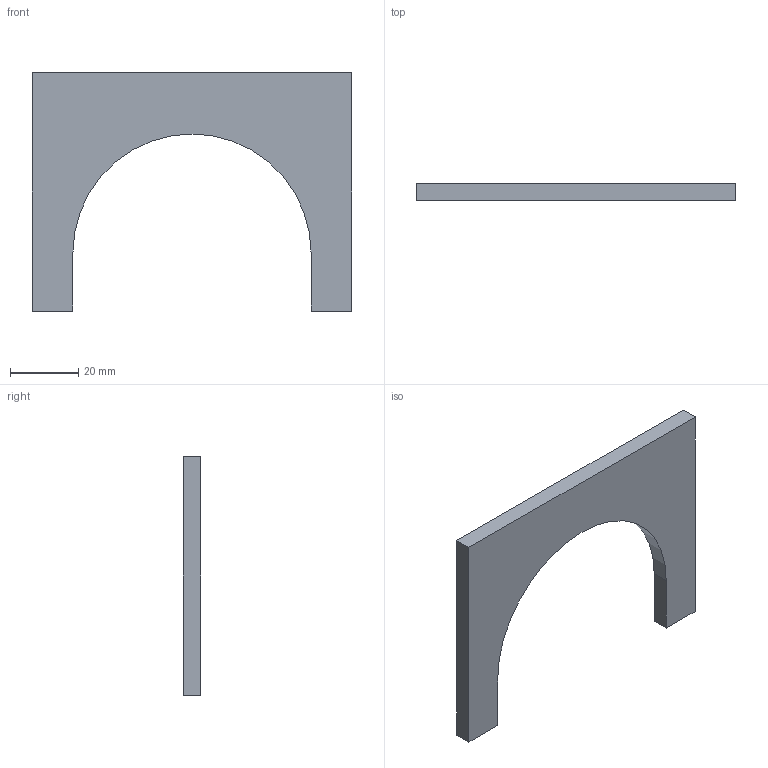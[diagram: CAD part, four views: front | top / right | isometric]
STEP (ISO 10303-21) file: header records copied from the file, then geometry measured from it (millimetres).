
FILE_DESCRIPTION (( 'STEP AP203' ), '1' );
FILE_NAME ('4896_Staffa_2_Dita_Piccola.STEP', '2019-02-20T19:12:48', ( '' ), ( '' ), 'SwSTEP 2.0', 'SolidWorks 2019', '' );
FILE_SCHEMA (( 'CONFIG_CONTROL_DESIGN' ));
Length unit declared in the file: millimetre
Products named in the file (1): 4896_Staffa_2_Dita_Piccola
Bounding box: 94 x 5 x 70 mm (x, y, z)
Volume: 17313 mm3; surface area: 8935.4 mm2
Topology: 1 solids, 1 shells, 11 faces, 27 edges, 18 vertices
Faces by surface type: plane 9, cylinder 2
Entity records: 402 total; most frequent: CARTESIAN_POINT 57, DIRECTION 55, ORIENTED_EDGE 54, EDGE_CURVE 27, VECTOR 23, LINE 23, VERTEX_POINT 18, AXIS2_PLACEMENT_3D 16
